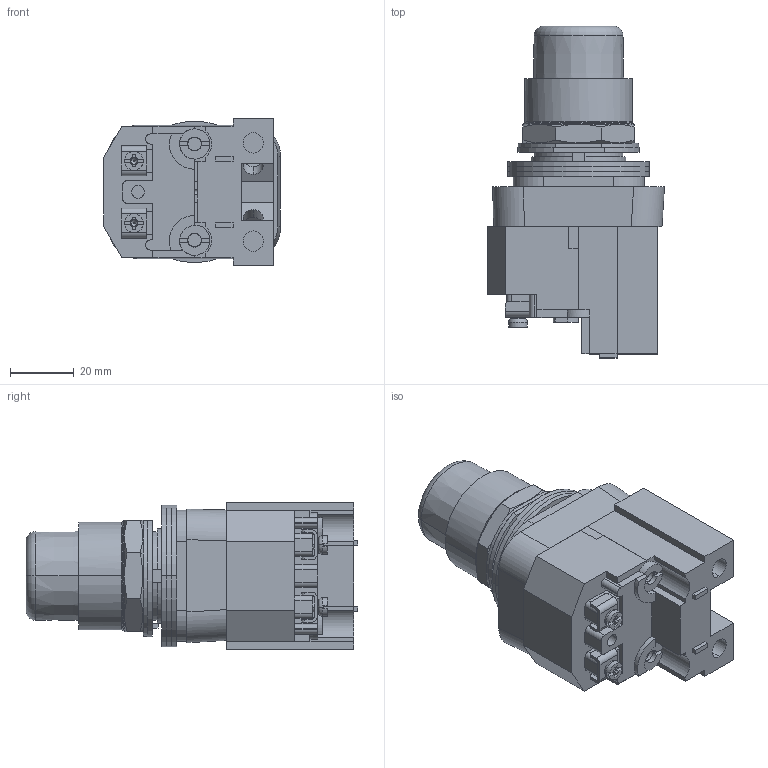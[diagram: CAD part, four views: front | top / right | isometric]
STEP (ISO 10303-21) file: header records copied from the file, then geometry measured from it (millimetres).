
FILE_DESCRIPTION((''),'2;1');
FILE_NAME('800T-PT16AAY_S_ASM','2013-10-28T',('wwhu'),('Rockwell Automation'),'PRO/ENGINEER BY PARAMETRIC TECHNOLOGY CORPORATION, 2010140','PRO/ENGINEER BY PARAMETRIC TECHNOLOGY CORPORATION, 2010140','');
FILE_SCHEMA(('CONFIG_CONTROL_DESIGN'));
Length unit declared in the file: inch
Products named in the file (11): 40271-082_S; 10000012472_S; GASKET-S; TRIM_WASHER-S; THRUST_WASHER-S; 40271-002_S; 40271-109_S; 800T-N32_S; 800T-XAY; M-8012_S; 800T-PT16AAY_S_ASM
Assembly tree (13 placements, depth 2):
  800T-PT16AAY_S_ASM
    40271-082_S
    10000012472_S
    GASKET-S  x3
    TRIM_WASHER-S
    THRUST_WASHER-S
    40271-002_S
    40271-109_S
    800T-N32_S
    800T-XAY
    M-8012_S  x2
Bounding box: 55.54 x 104.26 x 46.02 mm (x, y, z)
Volume: 105773.2 mm3; surface area: 53318.9 mm2
Topology: 15 solids, 17 shells, 733 faces, 1868 edges, 1210 vertices
Faces by surface type: plane 413, cylinder 214, cone 58, torus 24, bspline 24
Entity records: 23144 total; most frequent: CARTESIAN_POINT 5715, DIRECTION 3622, ORIENTED_EDGE 3568, EDGE_CURVE 1784, AXIS2_PLACEMENT_3D 1255, VERTEX_POINT 1154, VECTOR 1112, LINE 1112
